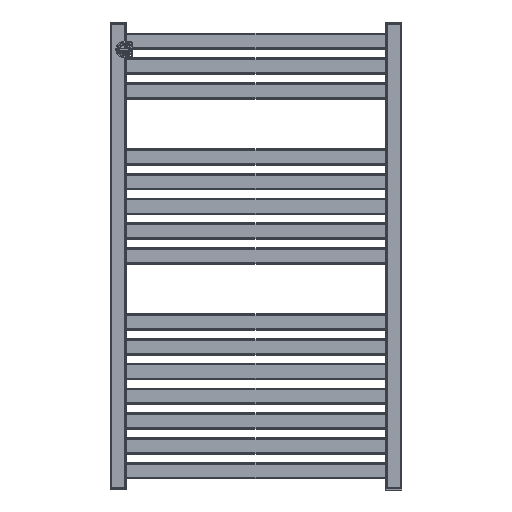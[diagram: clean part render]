
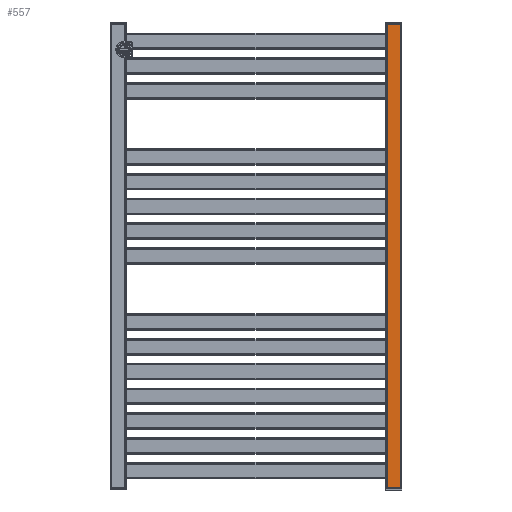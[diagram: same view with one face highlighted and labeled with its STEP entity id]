
A CAD part, front view. The second image highlights one B-rep face of the part: STEP entity #557.
In plain terms, the highlighted planar face has unit normal (0, -1, 0) as drawn and (-1, 0, 0) by its records, which use the part's own axes.
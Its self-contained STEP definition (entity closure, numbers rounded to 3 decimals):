
#557 = ADVANCED_FACE( '', ( #1193 ), #1194, .T. );
#1193 = FACE_OUTER_BOUND( '', #1937, .T. );
#1194 = PLANE( '', #1938 );
#1937 = EDGE_LOOP( '', ( #3453, #3454, #3455, #3456 ) );
#1938 = AXIS2_PLACEMENT_3D( '', #3457, #3458, #3459 );
#3453 = ORIENTED_EDGE( '', *, *, #4676, .T. );
#3454 = ORIENTED_EDGE( '', *, *, #4677, .T. );
#3455 = ORIENTED_EDGE( '', *, *, #4678, .F. );
#3456 = ORIENTED_EDGE( '', *, *, #4197, .T. );
#3457 = CARTESIAN_POINT( '', ( -15., 846., 15. ) );
#3458 = DIRECTION( '', ( -1., 0., 0. ) );
#3459 = DIRECTION( '', ( 0., 0., 1. ) );
#4197 = EDGE_CURVE( '', #5005, #5002, #5006, .F. );
#4676 = EDGE_CURVE( '', #5002, #5738, #5739, .T. );
#4677 = EDGE_CURVE( '', #5738, #5740, #5741, .T. );
#4678 = EDGE_CURVE( '', #5005, #5740, #5742, .T. );
#5002 = VERTEX_POINT( '', #6204 );
#5005 = VERTEX_POINT( '', #6207 );
#5006 = LINE( '', #6208, #6209 );
#5738 = VERTEX_POINT( '', #7225 );
#5739 = LINE( '', #7226, #7227 );
#5740 = VERTEX_POINT( '', #7228 );
#5741 = LINE( '', #7229, #7230 );
#5742 = LINE( '', #7231, #7232 );
#6204 = CARTESIAN_POINT( '', ( -15., 846., 12. ) );
#6207 = CARTESIAN_POINT( '', ( -15., 0., 12. ) );
#6208 = CARTESIAN_POINT( '', ( -15., 846., 12. ) );
#6209 = VECTOR( '', #7576, 1000. );
#7225 = CARTESIAN_POINT( '', ( -15., 846., -12. ) );
#7226 = CARTESIAN_POINT( '', ( -15., 846., 15. ) );
#7227 = VECTOR( '', #8211, 1000. );
#7228 = CARTESIAN_POINT( '', ( -15., 0., -12. ) );
#7229 = CARTESIAN_POINT( '', ( -15., 846., -12. ) );
#7230 = VECTOR( '', #8212, 1000. );
#7231 = CARTESIAN_POINT( '', ( -15., 0., 15. ) );
#7232 = VECTOR( '', #8213, 1000. );
#7576 = DIRECTION( '', ( 0., -1., 0. ) );
#8211 = DIRECTION( '', ( 0., 0., -1. ) );
#8212 = DIRECTION( '', ( 0., -1., 0. ) );
#8213 = DIRECTION( '', ( 0., 0., -1. ) );
